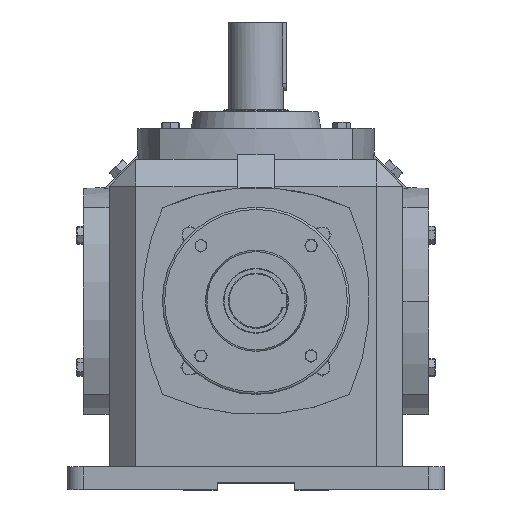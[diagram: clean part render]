
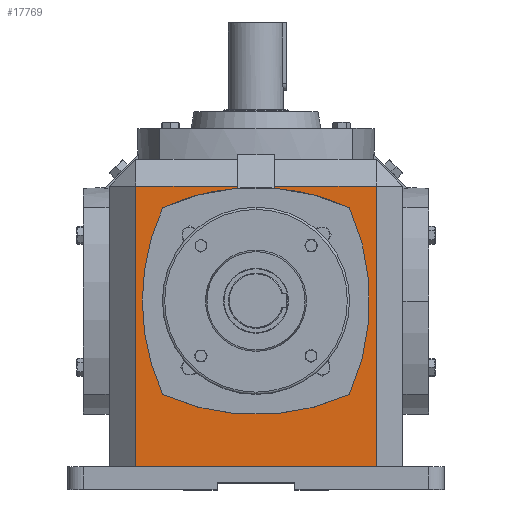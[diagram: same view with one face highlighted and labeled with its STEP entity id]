
A CAD part, top view. The second image highlights one B-rep face of the part: STEP entity #17769.
In plain terms, the highlighted planar face has unit normal (0, 0, 1).
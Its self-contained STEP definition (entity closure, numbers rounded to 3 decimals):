
#519 = DIRECTION ( 'NONE',  ( 0., 0., -1. ) ) ;
#673 = CARTESIAN_POINT ( 'NONE',  ( 28.735, 218.12, 226.1 ) ) ;
#1077 = DIRECTION ( 'NONE',  ( 0., 0., 1. ) ) ;
#1241 = CARTESIAN_POINT ( 'NONE',  ( -185.05, 218.12, 226.1 ) ) ;
#1341 = ORIENTED_EDGE ( 'NONE', *, *, #4341, .F. ) ;
#1374 = VECTOR ( 'NONE', #5293, 1000. ) ;
#1823 = LINE ( 'NONE', #13932, #1374 ) ;
#1916 = DIRECTION ( 'NONE',  ( 0., 0., 1. ) ) ;
#1989 = DIRECTION ( 'NONE',  ( 0., 1., 0. ) ) ;
#2170 = VERTEX_POINT ( 'NONE', #12379 ) ;
#2234 = EDGE_CURVE ( 'NONE', #4712, #13735, #16804, .T. ) ;
#2253 = CIRCLE ( 'NONE', #2497, 343.07 ) ;
#2277 = CARTESIAN_POINT ( 'NONE',  ( 185.05, 177.07, 226.1 ) ) ;
#2497 = AXIS2_PLACEMENT_3D ( 'NONE', #9752, #1077, #11210 ) ;
#2544 = AXIS2_PLACEMENT_3D ( 'NONE', #3433, #6302, #7981 ) ;
#2752 = EDGE_CURVE ( 'NONE', #5922, #2170, #7742, .T. ) ;
#2768 = CIRCLE ( 'NONE', #17285, 343.07 ) ;
#2833 = EDGE_CURVE ( 'NONE', #5866, #11460, #3905, .T. ) ;
#3089 = EDGE_CURVE ( 'NONE', #7031, #5866, #10667, .T. ) ;
#3196 = AXIS2_PLACEMENT_3D ( 'NONE', #16437, #1916, #12166 ) ;
#3249 = CARTESIAN_POINT ( 'NONE',  ( 28.735, 177.07, 226.1 ) ) ;
#3433 = CARTESIAN_POINT ( 'NONE',  ( 0., 168., 226.1 ) ) ;
#3722 = DIRECTION ( 'NONE',  ( -1., 0., 0. ) ) ;
#3905 = CIRCLE ( 'NONE', #6196, 343.07 ) ;
#4038 = AXIS2_PLACEMENT_3D ( 'NONE', #14113, #5472, #17086 ) ;
#4222 = DIRECTION ( 'NONE',  ( 0., -1., 0. ) ) ;
#4317 = LINE ( 'NONE', #1241, #12455 ) ;
#4341 = EDGE_CURVE ( 'NONE', #7399, #17556, #17533, .T. ) ;
#4712 = VERTEX_POINT ( 'NONE', #2277 ) ;
#5255 = LINE ( 'NONE', #13956, #14712 ) ;
#5289 = CARTESIAN_POINT ( 'NONE',  ( -226.1, 177.07, 226.1 ) ) ;
#5293 = DIRECTION ( 'NONE',  ( -1., 0., 0. ) ) ;
#5317 = DIRECTION ( 'NONE',  ( 0., 1., 0. ) ) ;
#5333 = CIRCLE ( 'NONE', #2544, 343.07 ) ;
#5444 = EDGE_CURVE ( 'NONE', #11460, #7399, #5333, .T. ) ;
#5472 = DIRECTION ( 'NONE',  ( 0., 0., 1. ) ) ;
#5735 = CARTESIAN_POINT ( 'NONE',  ( -226.1, -255., 226.1 ) ) ;
#5866 = VERTEX_POINT ( 'NONE', #12426 ) ;
#5922 = VERTEX_POINT ( 'NONE', #11094 ) ;
#5968 = ORIENTED_EDGE ( 'NONE', *, *, #10381, .F. ) ;
#6119 = CARTESIAN_POINT ( 'NONE',  ( -185.05, 177.07, 226.1 ) ) ;
#6196 = AXIS2_PLACEMENT_3D ( 'NONE', #11892, #14806, #16217 ) ;
#6302 = DIRECTION ( 'NONE',  ( 0., 0., 1. ) ) ;
#6535 = ORIENTED_EDGE ( 'NONE', *, *, #14931, .T. ) ;
#6612 = ORIENTED_EDGE ( 'NONE', *, *, #2833, .F. ) ;
#6693 = VERTEX_POINT ( 'NONE', #9727 ) ;
#6959 = EDGE_CURVE ( 'NONE', #13735, #8959, #7766, .T. ) ;
#7031 = VERTEX_POINT ( 'NONE', #10791 ) ;
#7399 = VERTEX_POINT ( 'NONE', #8944 ) ;
#7414 = CARTESIAN_POINT ( 'NONE',  ( 185.05, 218.12, 226.1 ) ) ;
#7742 = LINE ( 'NONE', #5735, #12924 ) ;
#7766 = LINE ( 'NONE', #673, #8906 ) ;
#7780 = VERTEX_POINT ( 'NONE', #11598 ) ;
#7981 = DIRECTION ( 'NONE',  ( 1., 0., 0. ) ) ;
#7990 = EDGE_CURVE ( 'NONE', #7780, #6693, #5255, .T. ) ;
#8675 = VECTOR ( 'NONE', #1989, 1000. ) ;
#8906 = VECTOR ( 'NONE', #15185, 1000. ) ;
#8944 = CARTESIAN_POINT ( 'NONE',  ( 143.58, -143.58, 226.1 ) ) ;
#8959 = VERTEX_POINT ( 'NONE', #10314 ) ;
#9031 = ORIENTED_EDGE ( 'NONE', *, *, #2752, .T. ) ;
#9064 = DIRECTION ( 'NONE',  ( -1., 0., 0. ) ) ;
#9318 = DIRECTION ( 'NONE',  ( 0., 0., 1. ) ) ;
#9413 = FACE_OUTER_BOUND ( 'NONE', #9865, .T. ) ;
#9727 = CARTESIAN_POINT ( 'NONE',  ( -28.735, 177.07, 226.1 ) ) ;
#9752 = CARTESIAN_POINT ( 'NONE',  ( 0., -168., 226.1 ) ) ;
#9865 = EDGE_LOOP ( 'NONE', ( #18721, #18532, #17469, #6535, #9031, #11166, #18151, #16743, #5968, #1341, #14754, #6612, #13421 ) ) ;
#10314 = CARTESIAN_POINT ( 'NONE',  ( 28.735, 173.864, 226.1 ) ) ;
#10381 = EDGE_CURVE ( 'NONE', #17556, #8959, #2253, .T. ) ;
#10667 = CIRCLE ( 'NONE', #4038, 343.07 ) ;
#10791 = CARTESIAN_POINT ( 'NONE',  ( -143.58, 143.58, 226.1 ) ) ;
#11094 = CARTESIAN_POINT ( 'NONE',  ( -185.05, -255., 226.1 ) ) ;
#11166 = ORIENTED_EDGE ( 'NONE', *, *, #12578, .T. ) ;
#11210 = DIRECTION ( 'NONE',  ( 1., 0., 0. ) ) ;
#11460 = VERTEX_POINT ( 'NONE', #11765 ) ;
#11598 = CARTESIAN_POINT ( 'NONE',  ( -28.735, 173.864, 226.1 ) ) ;
#11765 = CARTESIAN_POINT ( 'NONE',  ( -143.58, -143.58, 226.1 ) ) ;
#11892 = CARTESIAN_POINT ( 'NONE',  ( 168., 0., 226.1 ) ) ;
#12166 = DIRECTION ( 'NONE',  ( 1., 0., 0. ) ) ;
#12197 = CARTESIAN_POINT ( 'NONE',  ( 143.58, 143.58, 226.1 ) ) ;
#12307 = VERTEX_POINT ( 'NONE', #6119 ) ;
#12379 = CARTESIAN_POINT ( 'NONE',  ( 185.05, -255., 226.1 ) ) ;
#12426 = CARTESIAN_POINT ( 'NONE',  ( -175.07, 0., 226.1 ) ) ;
#12455 = VECTOR ( 'NONE', #4222, 1000. ) ;
#12578 = EDGE_CURVE ( 'NONE', #2170, #4712, #14080, .T. ) ;
#12924 = VECTOR ( 'NONE', #14498, 1000. ) ;
#12949 = VECTOR ( 'NONE', #3722, 1000. ) ;
#13421 = ORIENTED_EDGE ( 'NONE', *, *, #3089, .F. ) ;
#13515 = EDGE_CURVE ( 'NONE', #7780, #7031, #2768, .T. ) ;
#13536 = CARTESIAN_POINT ( 'NONE',  ( -226.1, 218.12, 226.1 ) ) ;
#13735 = VERTEX_POINT ( 'NONE', #3249 ) ;
#13932 = CARTESIAN_POINT ( 'NONE',  ( -226.1, 177.07, 226.1 ) ) ;
#13956 = CARTESIAN_POINT ( 'NONE',  ( -28.735, 218.12, 226.1 ) ) ;
#14080 = LINE ( 'NONE', #7414, #8675 ) ;
#14113 = CARTESIAN_POINT ( 'NONE',  ( 168., 0., 226.1 ) ) ;
#14498 = DIRECTION ( 'NONE',  ( 1., 0., 0. ) ) ;
#14712 = VECTOR ( 'NONE', #5317, 1000. ) ;
#14754 = ORIENTED_EDGE ( 'NONE', *, *, #5444, .F. ) ;
#14806 = DIRECTION ( 'NONE',  ( 0., 0., 1. ) ) ;
#14844 = EDGE_CURVE ( 'NONE', #6693, #12307, #1823, .T. ) ;
#14931 = EDGE_CURVE ( 'NONE', #12307, #5922, #4317, .T. ) ;
#15185 = DIRECTION ( 'NONE',  ( 0., -1., 0. ) ) ;
#15232 = CARTESIAN_POINT ( 'NONE',  ( 0., -168., 226.1 ) ) ;
#16217 = DIRECTION ( 'NONE',  ( 1., 0., 0. ) ) ;
#16437 = CARTESIAN_POINT ( 'NONE',  ( -168., 0., 226.1 ) ) ;
#16743 = ORIENTED_EDGE ( 'NONE', *, *, #6959, .T. ) ;
#16804 = LINE ( 'NONE', #5289, #12949 ) ;
#17086 = DIRECTION ( 'NONE',  ( 1., 0., 0. ) ) ;
#17285 = AXIS2_PLACEMENT_3D ( 'NONE', #15232, #9318, #18130 ) ;
#17469 = ORIENTED_EDGE ( 'NONE', *, *, #14844, .T. ) ;
#17533 = CIRCLE ( 'NONE', #3196, 343.07 ) ;
#17556 = VERTEX_POINT ( 'NONE', #12197 ) ;
#17585 = AXIS2_PLACEMENT_3D ( 'NONE', #13536, #519, #9064 ) ;
#17769 = ADVANCED_FACE ( 'NONE', ( #9413 ), #17877, .F. ) ;
#17877 = PLANE ( 'NONE',  #17585 ) ;
#18130 = DIRECTION ( 'NONE',  ( 1., 0., 0. ) ) ;
#18151 = ORIENTED_EDGE ( 'NONE', *, *, #2234, .T. ) ;
#18532 = ORIENTED_EDGE ( 'NONE', *, *, #7990, .T. ) ;
#18721 = ORIENTED_EDGE ( 'NONE', *, *, #13515, .F. ) ;
